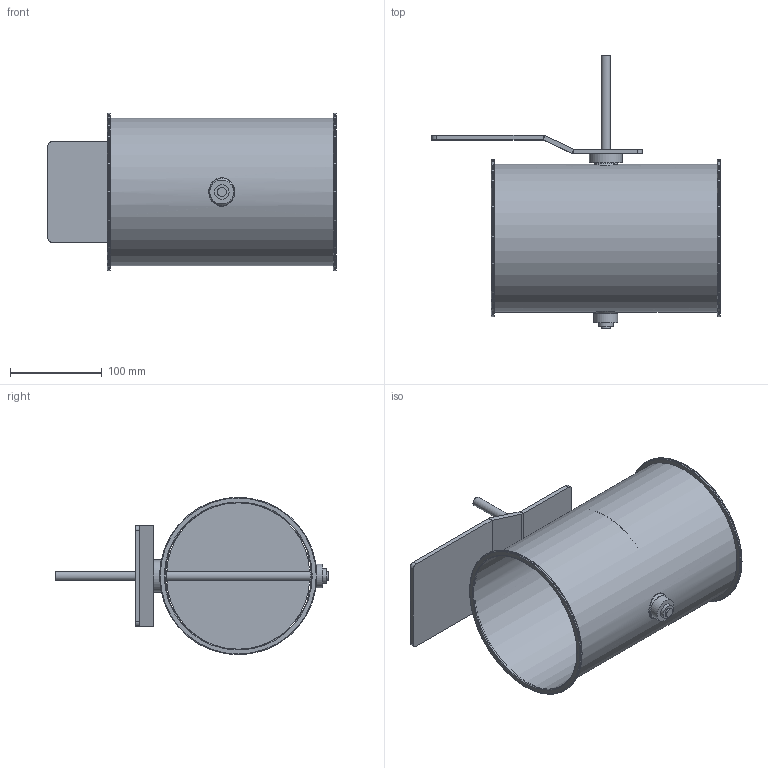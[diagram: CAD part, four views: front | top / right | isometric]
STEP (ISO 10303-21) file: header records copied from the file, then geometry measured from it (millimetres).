
FILE_DESCRIPTION(/* description */ (''),/* implementation_level */ '2;1');
FILE_NAME(/* name */ 'EA125-80B__160_L250_Belimo_Typen_NF_SF.stp',/* time_stamp */ '2017-12-06T13:10:03+01:00',/* author */ (''),/* organization */ (''),/* preprocessor_version */ 'ST-DEVELOPER v11',/* originating_system */ 'SIEMENS UGS NX 6.0',/* authorisation */ '');
FILE_SCHEMA (('CONFIG_CONTROL_DESIGN'));
Length unit declared in the file: millimetre
Products named in the file (1): gars18E2j20a
Bounding box: 315 x 299 x 172 mm (x, y, z)
Volume: 305052.6 mm3; surface area: 376862.3 mm2
Topology: 8 solids, 8 shells, 92 faces, 193 edges, 125 vertices
Faces by surface type: plane 42, cylinder 32, torus 10, cone 4, bspline 4
Full cylindrical faces by diameter (mm): 4.1 x4, 10 x3, 15 x3, 15.85 x2, 16 x2, 24 x2, 26 x1, 36 x1, 160 x1, 161.6 x1, 172 x2
Entity records: 2786 total; most frequent: CARTESIAN_POINT 935, DIRECTION 382, ORIENTED_EDGE 268, AXIS2_PLACEMENT_3D 167, EDGE_LOOP 164, FACE_BOUND 134, EDGE_CURVE 134, VERTEX_POINT 106
